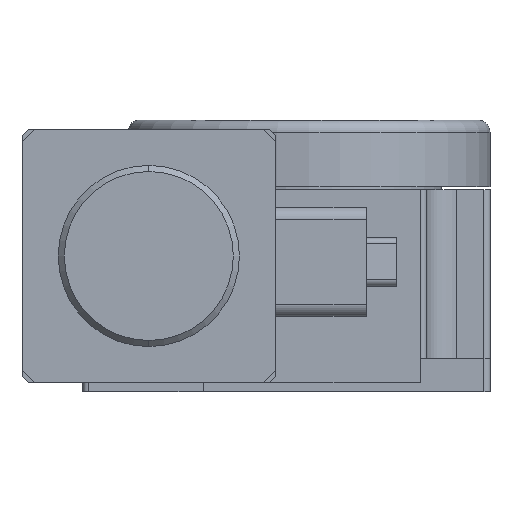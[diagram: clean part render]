
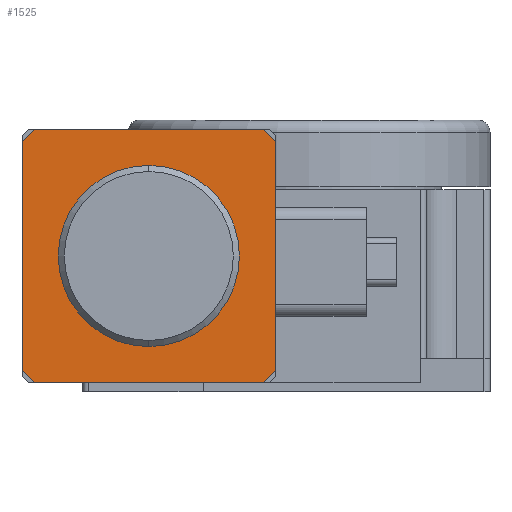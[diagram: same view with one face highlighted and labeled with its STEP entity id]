
A CAD part, front view. The second image highlights one B-rep face of the part: STEP entity #1525.
In plain terms, the highlighted planar face has unit normal (0, -1, 0) as drawn and (0, 0, 1) by its records, which use the part's own axes.
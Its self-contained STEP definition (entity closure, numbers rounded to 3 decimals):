
#9 = VECTOR ( 'NONE', #2587, 1000. ) ;
#73 = VECTOR ( 'NONE', #5289, 1000. ) ;
#106 = LINE ( 'NONE', #3617, #1054 ) ;
#366 = EDGE_CURVE ( 'NONE', #1781, #4784, #4533, .T. ) ;
#424 = ORIENTED_EDGE ( 'NONE', *, *, #4190, .T. ) ;
#440 = CARTESIAN_POINT ( 'NONE',  ( 21., 19., 40. ) ) ;
#453 = ORIENTED_EDGE ( 'NONE', *, *, #3902, .T. ) ;
#600 = AXIS2_PLACEMENT_3D ( 'NONE', #2961, #4206, #1728 ) ;
#625 = CARTESIAN_POINT ( 'NONE',  ( -21., -19., 40. ) ) ;
#695 = LINE ( 'NONE', #4255, #3862 ) ;
#746 = LINE ( 'NONE', #3409, #2938 ) ;
#764 = VERTEX_POINT ( 'NONE', #1986 ) ;
#776 = CARTESIAN_POINT ( 'NONE',  ( 21., 19., 40. ) ) ;
#908 = ORIENTED_EDGE ( 'NONE', *, *, #2142, .T. ) ;
#944 = DIRECTION ( 'NONE',  ( 0., 1., 0. ) ) ;
#951 = ORIENTED_EDGE ( 'NONE', *, *, #1704, .T. ) ;
#981 = DIRECTION ( 'NONE',  ( 0.707, 0.707, 0. ) ) ;
#1028 = CARTESIAN_POINT ( 'NONE',  ( 19., -21., 40. ) ) ;
#1054 = VECTOR ( 'NONE', #3199, 1000. ) ;
#1278 = CARTESIAN_POINT ( 'NONE',  ( -21., 19., 40. ) ) ;
#1325 = PLANE ( 'NONE',  #600 ) ;
#1372 = VECTOR ( 'NONE', #2419, 1000. ) ;
#1424 = ORIENTED_EDGE ( 'NONE', *, *, #4209, .T. ) ;
#1517 = VERTEX_POINT ( 'NONE', #2121 ) ;
#1525 = ADVANCED_FACE ( 'N', ( #4290 ), #1325, .T. ) ;
#1558 = EDGE_CURVE ( 'NONE', #2490, #1781, #746, .T. ) ;
#1691 = DIRECTION ( 'NONE',  ( 0., -1., 0. ) ) ;
#1704 = EDGE_CURVE ( 'NONE', #3182, #1517, #106, .T. ) ;
#1728 = DIRECTION ( 'NONE',  ( 1., 0., 0. ) ) ;
#1781 = VERTEX_POINT ( 'NONE', #776 ) ;
#1923 = LINE ( 'NONE', #5088, #9 ) ;
#1986 = CARTESIAN_POINT ( 'NONE',  ( -19., 21., 40. ) ) ;
#2121 = CARTESIAN_POINT ( 'NONE',  ( -19., -21., 40. ) ) ;
#2142 = EDGE_CURVE ( 'NONE', #2228, #3182, #2654, .T. ) ;
#2169 = CARTESIAN_POINT ( 'NONE',  ( 21., -19., 40. ) ) ;
#2228 = VERTEX_POINT ( 'NONE', #3360 ) ;
#2419 = DIRECTION ( 'NONE',  ( -0.707, 0.707, 0. ) ) ;
#2490 = VERTEX_POINT ( 'NONE', #2169 ) ;
#2587 = DIRECTION ( 'NONE',  ( -1., 0., 0. ) ) ;
#2654 = LINE ( 'NONE', #1278, #3631 ) ;
#2938 = VECTOR ( 'NONE', #944, 1000. ) ;
#2961 = CARTESIAN_POINT ( 'NONE',  ( 0., 0., 40. ) ) ;
#3127 = ORIENTED_EDGE ( 'NONE', *, *, #1558, .T. ) ;
#3182 = VERTEX_POINT ( 'NONE', #625 ) ;
#3199 = DIRECTION ( 'NONE',  ( 0.707, -0.707, 0. ) ) ;
#3214 = LINE ( 'NONE', #4882, #73 ) ;
#3291 = ORIENTED_EDGE ( 'NONE', *, *, #366, .T. ) ;
#3360 = CARTESIAN_POINT ( 'NONE',  ( -21., 19., 40. ) ) ;
#3409 = CARTESIAN_POINT ( 'NONE',  ( 21., -19., 40. ) ) ;
#3617 = CARTESIAN_POINT ( 'NONE',  ( -21., -19., 40. ) ) ;
#3631 = VECTOR ( 'NONE', #1691, 1000. ) ;
#3847 = VECTOR ( 'NONE', #5087, 1000. ) ;
#3862 = VECTOR ( 'NONE', #981, 1000. ) ;
#3902 = EDGE_CURVE ( 'NONE', #1517, #4320, #3214, .T. ) ;
#4190 = EDGE_CURVE ( 'NONE', #4784, #764, #1923, .T. ) ;
#4206 = DIRECTION ( 'NONE',  ( 0., 0., 1. ) ) ;
#4209 = EDGE_CURVE ( 'NONE', #4320, #2490, #695, .T. ) ;
#4239 = CARTESIAN_POINT ( 'NONE',  ( 19., 21., 40. ) ) ;
#4255 = CARTESIAN_POINT ( 'NONE',  ( 19., -21., 40. ) ) ;
#4290 = FACE_OUTER_BOUND ( 'NONE', #4326, .T. ) ;
#4320 = VERTEX_POINT ( 'NONE', #1028 ) ;
#4326 = EDGE_LOOP ( 'NONE', ( #3127, #3291, #424, #5011, #908, #951, #453, #1424 ) ) ;
#4533 = LINE ( 'NONE', #440, #1372 ) ;
#4647 = CARTESIAN_POINT ( 'NONE',  ( -19., 21., 40. ) ) ;
#4784 = VERTEX_POINT ( 'NONE', #4239 ) ;
#4801 = EDGE_CURVE ( 'NONE', #764, #2228, #5091, .T. ) ;
#4882 = CARTESIAN_POINT ( 'NONE',  ( -19., -21., 40. ) ) ;
#5011 = ORIENTED_EDGE ( 'NONE', *, *, #4801, .T. ) ;
#5087 = DIRECTION ( 'NONE',  ( -0.707, -0.707, 0. ) ) ;
#5088 = CARTESIAN_POINT ( 'NONE',  ( 19., 21., 40. ) ) ;
#5091 = LINE ( 'NONE', #4647, #3847 ) ;
#5289 = DIRECTION ( 'NONE',  ( 1., 0., 0. ) ) ;
